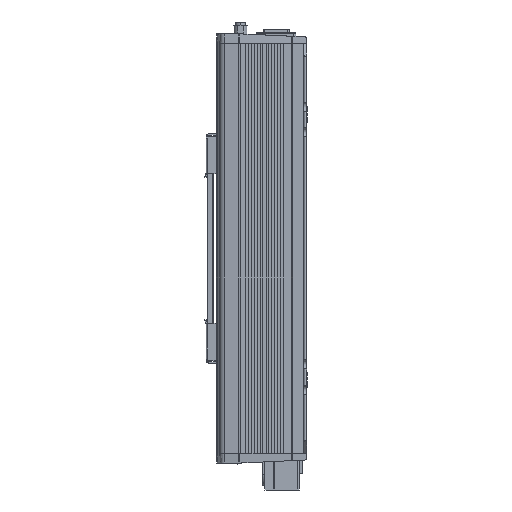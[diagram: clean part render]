
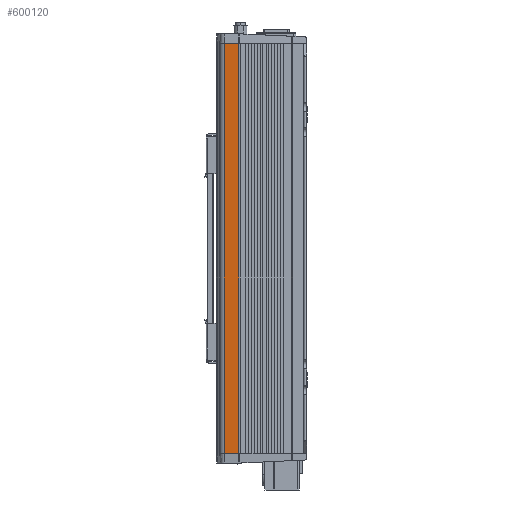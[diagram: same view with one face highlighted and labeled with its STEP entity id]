
A CAD part, left-side view. The second image highlights one B-rep face of the part: STEP entity #600120.
In plain terms, the highlighted planar face has unit normal (-0.995, 0.104, 0).
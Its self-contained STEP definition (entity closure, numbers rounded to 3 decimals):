
#582320=CARTESIAN_POINT('',(1975.16,76.808,373.756)
);
#582330=VERTEX_POINT('',#582320);
#582360=CARTESIAN_POINT('',(1967.087,0.,373.756));
#582370=DIRECTION('',(-0.105,-0.995,0.));
#582380=VECTOR('',#582370,1.);
#582390=LINE('',#582360,#582380);
#582400=CARTESIAN_POINT('',(1976.316,87.804,373.756
));
#582410=VERTEX_POINT('',#582400);
#582420=EDGE_CURVE('',#582410,#582330,#582390,.T.);
#590730=CARTESIAN_POINT('',(1976.316,87.804,55.756)
);
#590740=VERTEX_POINT('',#590730);
#590770=CARTESIAN_POINT('',(1967.087,0.,55.756));
#590780=DIRECTION('',(0.105,0.995,0.));
#590790=VECTOR('',#590780,1.);
#590800=LINE('',#590770,#590790);
#590810=CARTESIAN_POINT('',(1975.16,76.808,55.756))
;
#590820=VERTEX_POINT('',#590810);
#590830=EDGE_CURVE('',#590820,#590740,#590800,.T.);
#599870=CARTESIAN_POINT('',(1976.316,87.804,373.756
));
#599880=DIRECTION('',(0.,0.,-1.));
#599890=VECTOR('',#599880,1.);
#599900=LINE('',#599870,#599890);
#599910=EDGE_CURVE('',#582410,#590740,#599900,.T.);
#599960=CARTESIAN_POINT('',(1976.603,90.531,122.9));
#599970=DIRECTION('',(0.995,-0.105,0.));
#599980=DIRECTION('',(0.105,0.995,0.));
#599990=AXIS2_PLACEMENT_3D('',#599960,#599970,#599980);
#600000=PLANE('',#599990);
#600010=ORIENTED_EDGE('',*,*,#582420,.F.);
#600020=CARTESIAN_POINT('',(1975.16,76.808,0.));
#600030=DIRECTION('',(0.,0.,1.));
#600040=VECTOR('',#600030,1.);
#600050=LINE('',#600020,#600040);
#600060=EDGE_CURVE('',#590820,#582330,#600050,.T.);
#600070=ORIENTED_EDGE('',*,*,#600060,.T.);
#600080=ORIENTED_EDGE('',*,*,#590830,.F.);
#600090=ORIENTED_EDGE('',*,*,#599910,.T.);
#600100=EDGE_LOOP('',(#600090,#600080,#600070,#600010));
#600110=FACE_OUTER_BOUND('',#600100,.T.);
#600120=ADVANCED_FACE('',(#600110),#600000,.F.);
